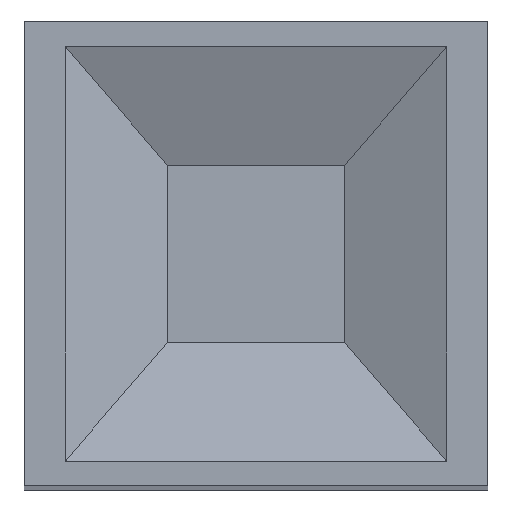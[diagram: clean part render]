
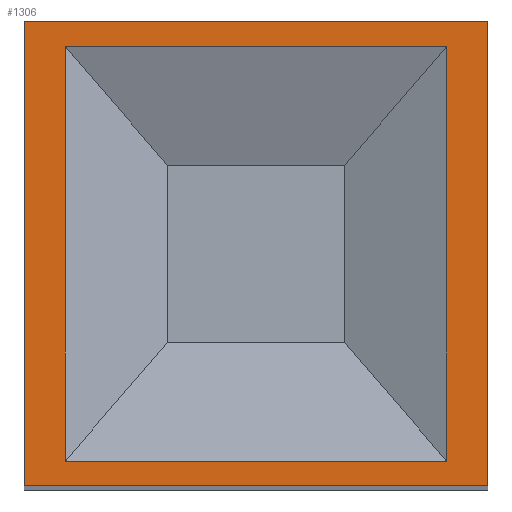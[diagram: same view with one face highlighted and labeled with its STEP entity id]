
A CAD part, top view. The second image highlights one B-rep face of the part: STEP entity #1306.
In plain terms, the highlighted planar face has unit normal (0, 0, 1).
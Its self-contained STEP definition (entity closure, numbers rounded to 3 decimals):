
#25=DIRECTION('',(0.,1.,0.));
#26=VECTOR('',#25,2.54);
#27=CARTESIAN_POINT('',(1.27,-2.54,0.));
#28=LINE('52',#27,#26);
#385=DIRECTION('',(0.,1.,0.));
#386=VECTOR('',#385,2.54);
#387=CARTESIAN_POINT('',(-1.27,-2.54,0.));
#388=LINE('55',#387,#386);
#409=DIRECTION('',(-1.,0.,0.));
#410=VECTOR('',#409,2.54);
#411=CARTESIAN_POINT('',(1.27,0.,0.));
#412=LINE('59',#411,#410);
#417=DIRECTION('',(-1.,0.,0.));
#418=VECTOR('',#417,2.54);
#419=CARTESIAN_POINT('',(1.27,-2.54,0.));
#420=LINE('58',#419,#418);
#421=DIRECTION('',(0.,1.,0.));
#422=VECTOR('',#421,2.273);
#423=CARTESIAN_POINT('',(1.046,-2.407,0.));
#424=LINE('70',#423,#422);
#425=DIRECTION('',(-1.,0.,0.));
#426=VECTOR('',#425,2.091);
#427=CARTESIAN_POINT('',(1.046,-0.134,0.));
#428=LINE('71',#427,#426);
#429=DIRECTION('',(0.,-1.,0.));
#430=VECTOR('',#429,2.273);
#431=CARTESIAN_POINT('',(-1.046,-0.134,0.));
#432=LINE('72',#431,#430);
#433=DIRECTION('',(1.,0.,0.));
#434=VECTOR('',#433,2.091);
#435=CARTESIAN_POINT('',(-1.046,-2.407,0.));
#436=LINE('73',#435,#434);
#565=CARTESIAN_POINT('',(1.27,-2.54,0.));
#566=CARTESIAN_POINT('',(1.27,0.,0.));
#567=VERTEX_POINT('',#565);
#568=VERTEX_POINT('',#566);
#573=CARTESIAN_POINT('',(-1.27,-2.54,0.));
#574=CARTESIAN_POINT('',(-1.27,0.,0.));
#575=VERTEX_POINT('',#573);
#576=VERTEX_POINT('',#574);
#597=CARTESIAN_POINT('',(1.046,-2.407,0.));
#598=CARTESIAN_POINT('',(1.046,-0.134,0.));
#599=VERTEX_POINT('',#597);
#600=VERTEX_POINT('',#598);
#601=CARTESIAN_POINT('',(-1.046,-0.134,0.));
#602=VERTEX_POINT('',#601);
#603=CARTESIAN_POINT('',(-1.046,-2.407,0.));
#604=VERTEX_POINT('',#603);
#1284=CARTESIAN_POINT('',(1.27,-2.54,0.));
#1285=DIRECTION('',(0.,0.,1.));
#1286=DIRECTION('',(0.,1.,0.));
#1287=AXIS2_PLACEMENT_3D('',#1284,#1285,#1286);
#1288=PLANE('4',#1287);
#1289=ORIENTED_EDGE('52',*,*,#762,.F.);
#1291=ORIENTED_EDGE('58',*,*,#1290,.T.);
#1292=ORIENTED_EDGE('55',*,*,#1257,.T.);
#1293=ORIENTED_EDGE('59',*,*,#1277,.F.);
#1294=EDGE_LOOP('4',(#1289,#1291,#1292,#1293));
#1295=FACE_OUTER_BOUND('4',#1294,.F.);
#1297=ORIENTED_EDGE('70',*,*,#1296,.T.);
#1299=ORIENTED_EDGE('71',*,*,#1298,.T.);
#1301=ORIENTED_EDGE('72',*,*,#1300,.T.);
#1303=ORIENTED_EDGE('73',*,*,#1302,.T.);
#1304=EDGE_LOOP('4',(#1297,#1299,#1301,#1303));
#1305=FACE_BOUND('4',#1304,.F.);
#1306=ADVANCED_FACE('4',(#1295,#1305),#1288,.T.);
#762=EDGE_CURVE('52',#567,#568,#28,.T.);
#1257=EDGE_CURVE('55',#575,#576,#388,.T.);
#1277=EDGE_CURVE('59',#568,#576,#412,.T.);
#1290=EDGE_CURVE('58',#567,#575,#420,.T.);
#1296=EDGE_CURVE('70',#599,#600,#424,.T.);
#1298=EDGE_CURVE('71',#600,#602,#428,.T.);
#1300=EDGE_CURVE('72',#602,#604,#432,.T.);
#1302=EDGE_CURVE('73',#604,#599,#436,.T.);
